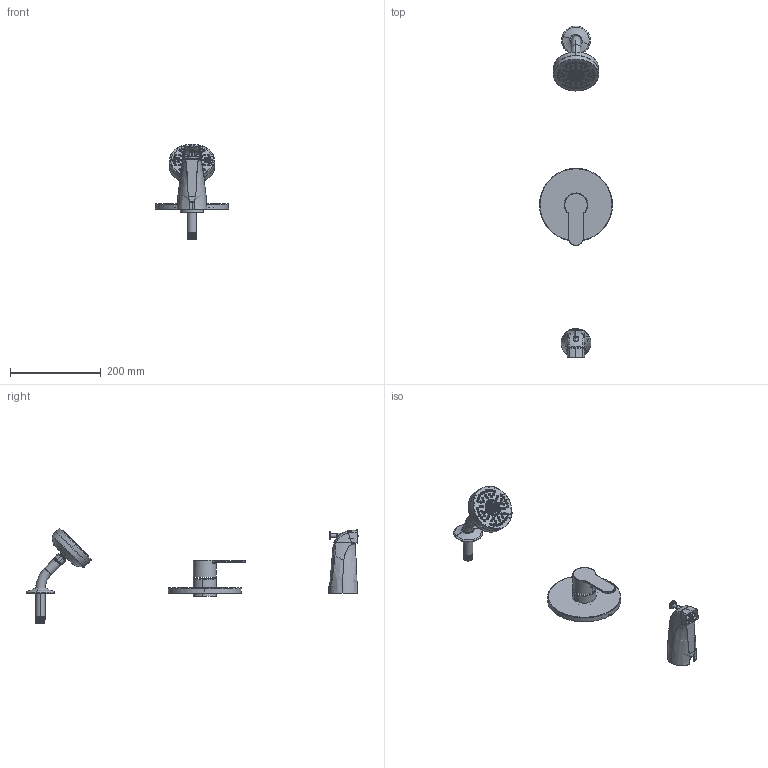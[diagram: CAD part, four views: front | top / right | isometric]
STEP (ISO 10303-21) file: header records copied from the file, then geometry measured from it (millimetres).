
FILE_DESCRIPTION (( 'STEP AP214' ), '1' );
FILE_NAME ('6792TRM.STEP', '2025-01-15T08:27:44', ( '' ), ( '' ), 'SwSTEP 2.0', 'SolidWorks 2023', '' );
FILE_SCHEMA (( 'AUTOMOTIVE_DESIGN' ));
Products named in the file (1): 6792TRM
Bounding box: 161.04 x 731.96 x 210.78 mm (x, y, z)
Surface area: 215418.9 mm2 (no closed solid volume)
Topology: 0 solids, 153 shells, 1177 faces, 4067 edges, 3022 vertices
Faces by surface type: bspline 346, plane 313, cylinder 222, cone 218, torus 69, sphere 9
Entity records: 141282 total; most frequent: CARTESIAN_POINT 110717, ORIENTED_EDGE 6160, DIRECTION 5064, EDGE_CURVE 4062, VERTEX_POINT 3019, AXIS2_PLACEMENT_3D 2039, B_SPLINE_CURVE_WITH_KNOTS 1822, EDGE_LOOP 1499
